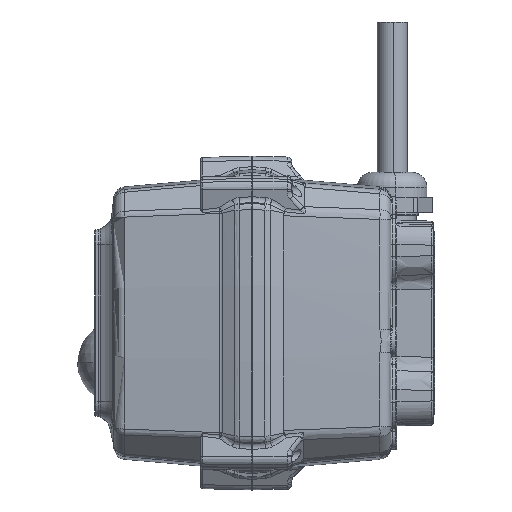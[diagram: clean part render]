
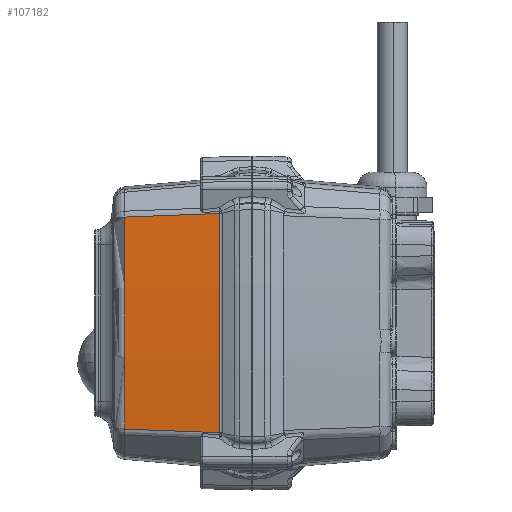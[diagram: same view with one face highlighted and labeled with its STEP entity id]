
A CAD part, left-side view. The second image highlights one B-rep face of the part: STEP entity #107182.
In plain terms, the highlighted conical face has half-angle 5 degrees and reference radius 722.5 mm.
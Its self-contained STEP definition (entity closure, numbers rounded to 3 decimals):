
#1104 = CIRCLE ( 'NONE', #88337, 718.795 ) ;
#5367 = DIRECTION ( 'NONE',  ( 0., 0., 1. ) ) ;
#6385 = VERTEX_POINT ( 'NONE', #26752 ) ;
#6603 = AXIS2_PLACEMENT_3D ( 'NONE', #103998, #37975, #115100 ) ;
#6811 = CARTESIAN_POINT ( 'NONE',  ( 59.564, 40.8, 35.293 ) ) ;
#6991 = ORIENTED_EDGE ( 'NONE', *, *, #98740, .T. ) ;
#7912 = AXIS2_PLACEMENT_3D ( 'NONE', #100593, #56721, #112212 ) ;
#10239 = CARTESIAN_POINT ( 'NONE',  ( 60.302, 32.183, -35.622 ) ) ;
#15637 = ORIENTED_EDGE ( 'NONE', *, *, #32909, .T. ) ;
#17881 = CARTESIAN_POINT ( 'NONE',  ( 60.313, 32.061, 35.627 ) ) ;
#21284 = CARTESIAN_POINT ( 'NONE',  ( 59.557, 40.882, -35.29 ) ) ;
#26752 = CARTESIAN_POINT ( 'NONE',  ( 62.149, 10.631, 36.445 ) ) ;
#28912 = CARTESIAN_POINT ( 'NONE',  ( 61.678, 16.131, 36.235 ) ) ;
#29857 = VERTEX_POINT ( 'NONE', #48179 ) ;
#32336 = CARTESIAN_POINT ( 'NONE',  ( 59.431, 42.349, -35.234 ) ) ;
#32909 = EDGE_CURVE ( 'NONE', #29857, #113607, #34506, .T. ) ;
#33745 = CIRCLE ( 'NONE', #6603, 721.57 ) ;
#34506 = B_SPLINE_CURVE_WITH_KNOTS ( 'NONE', 3,
 ( #53903, #120029, #65045, #142173, #76113, #10239, #87163, #21284, #98291, #32336 ),
 .UNSPECIFIED., .F., .F.,
 ( 4, 3, 3, 4 ),
 ( 0., 0.006, 0.03, 0.032 ),
 .UNSPECIFIED. ) ;
#36555 = VERTEX_POINT ( 'NONE', #87098 ) ;
#37975 = DIRECTION ( 'NONE',  ( 0., 1., 0. ) ) ;
#39933 = CARTESIAN_POINT ( 'NONE',  ( 61.992, 12.464, 36.375 ) ) ;
#48179 = CARTESIAN_POINT ( 'NONE',  ( 62.149, 10.631, -36.445 ) ) ;
#51694 = ORIENTED_EDGE ( 'NONE', *, *, #75085, .T. ) ;
#53744 = B_SPLINE_CURVE_WITH_KNOTS ( 'NONE', 3,
 ( #138736, #116634, #6811, #83742, #17881, #94831, #28912, #105987, #39933, #117091 ),
 .UNSPECIFIED., .F., .F.,
 ( 4, 3, 3, 4 ),
 ( 0.004, 0.006, 0.03, 0.036 ),
 .UNSPECIFIED. ) ;
#53903 = CARTESIAN_POINT ( 'NONE',  ( 62.149, 10.631, -36.445 ) ) ;
#56721 = DIRECTION ( 'NONE',  ( 0., -1., 0. ) ) ;
#65045 = CARTESIAN_POINT ( 'NONE',  ( 61.828, 14.379, -36.302 ) ) ;
#71229 = DIRECTION ( 'NONE',  ( 0., -1., 0. ) ) ;
#75085 = EDGE_CURVE ( 'NONE', #113607, #36555, #1104, .T. ) ;
#76113 = CARTESIAN_POINT ( 'NONE',  ( 60.985, 24.218, -35.926 ) ) ;
#79246 = ORIENTED_EDGE ( 'NONE', *, *, #125791, .T. ) ;
#83069 = EDGE_LOOP ( 'NONE', ( #79246, #6991, #15637, #51694 ) ) ;
#83742 = CARTESIAN_POINT ( 'NONE',  ( 59.63, 40.026, 35.323 ) ) ;
#87098 = CARTESIAN_POINT ( 'NONE',  ( 59.431, 42.349, 35.234 ) ) ;
#87163 = CARTESIAN_POINT ( 'NONE',  ( 59.619, 40.148, -35.318 ) ) ;
#88337 = AXIS2_PLACEMENT_3D ( 'NONE', #137292, #71229, #5367 ) ;
#94831 = CARTESIAN_POINT ( 'NONE',  ( 60.995, 24.096, 35.931 ) ) ;
#98291 = CARTESIAN_POINT ( 'NONE',  ( 59.494, 41.615, -35.262 ) ) ;
#98740 = EDGE_CURVE ( 'NONE', #6385, #29857, #33745, .T. ) ;
#99708 = CONICAL_SURFACE ( 'NONE', #7912, 722.5, 0.087 ) ;
#100593 = CARTESIAN_POINT ( 'NONE',  ( -658.5, 0., 0. ) ) ;
#103998 = CARTESIAN_POINT ( 'NONE',  ( -658.5, 10.631, 0. ) ) ;
#105987 = CARTESIAN_POINT ( 'NONE',  ( 61.835, 14.298, 36.305 ) ) ;
#107182 = ADVANCED_FACE ( 'NONE', ( #137478 ), #99708, .T. ) ;
#112212 = DIRECTION ( 'NONE',  ( 0., 0., -1. ) ) ;
#113607 = VERTEX_POINT ( 'NONE', #119747 ) ;
#115100 = DIRECTION ( 'NONE',  ( 0., 0., -1. ) ) ;
#116634 = CARTESIAN_POINT ( 'NONE',  ( 59.497, 41.574, 35.264 ) ) ;
#117091 = CARTESIAN_POINT ( 'NONE',  ( 62.149, 10.631, 36.445 ) ) ;
#119747 = CARTESIAN_POINT ( 'NONE',  ( 59.431, 42.349, -35.234 ) ) ;
#120029 = CARTESIAN_POINT ( 'NONE',  ( 61.988, 12.505, -36.373 ) ) ;
#125791 = EDGE_CURVE ( 'NONE', #36555, #6385, #53744, .T. ) ;
#137292 = CARTESIAN_POINT ( 'NONE',  ( -658.5, 42.349, 0. ) ) ;
#137478 = FACE_OUTER_BOUND ( 'NONE', #83069, .T. ) ;
#138736 = CARTESIAN_POINT ( 'NONE',  ( 59.431, 42.349, 35.234 ) ) ;
#142173 = CARTESIAN_POINT ( 'NONE',  ( 61.667, 16.253, -36.23 ) ) ;
